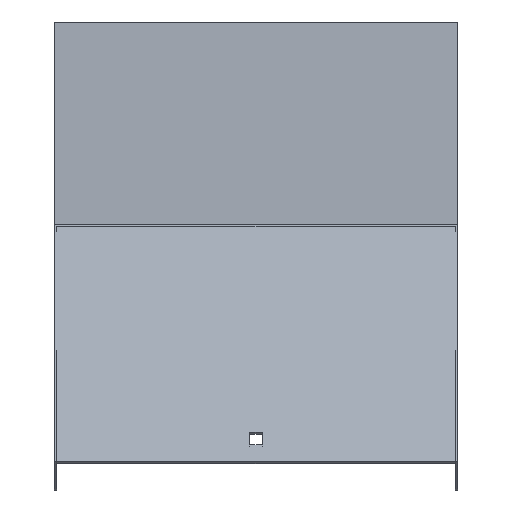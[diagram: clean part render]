
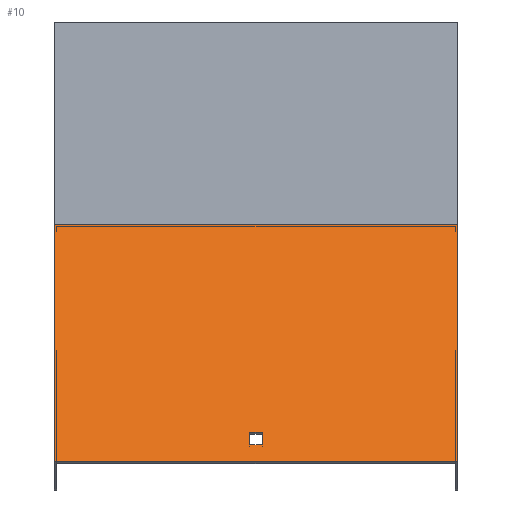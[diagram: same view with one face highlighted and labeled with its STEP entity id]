
A CAD part, top view. The second image highlights one B-rep face of the part: STEP entity #10.
In plain terms, the highlighted planar face has unit normal (0, 0.707, 0.707).
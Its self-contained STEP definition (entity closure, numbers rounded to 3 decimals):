
#2 = VERTEX_POINT ( 'NONE', #12 ) ;
#10 = ADVANCED_FACE ( 'NONE', ( #136, #656 ), #217, .F. ) ;
#12 = CARTESIAN_POINT ( 'NONE',  ( -3.25, -193.16, 526.614 ) ) ;
#35 = DIRECTION ( 'NONE',  ( -1., 0., 0. ) ) ;
#41 = LINE ( 'NONE', #710, #102 ) ;
#72 = VERTEX_POINT ( 'NONE', #154 ) ;
#73 = DIRECTION ( 'NONE',  ( 0., -0.707, -0.707 ) ) ;
#90 = EDGE_CURVE ( 'NONE', #276, #230, #673, .T. ) ;
#101 = DIRECTION ( 'NONE',  ( 0., -0.707, 0.707 ) ) ;
#102 = VECTOR ( 'NONE', #35, 1000. ) ;
#112 = CARTESIAN_POINT ( 'NONE',  ( -3.25, -84.973, 418.427 ) ) ;
#136 = FACE_BOUND ( 'NONE', #593, .T. ) ;
#137 = VECTOR ( 'NONE', #156, 1000. ) ;
#138 = EDGE_CURVE ( 'NONE', #461, #513, #323, .T. ) ;
#146 = VECTOR ( 'NONE', #489, 1000. ) ;
#154 = CARTESIAN_POINT ( 'NONE',  ( -3.25, -186.796, 520.25 ) ) ;
#156 = DIRECTION ( 'NONE',  ( 0., -0.707, 0.707 ) ) ;
#195 = VECTOR ( 'NONE', #101, 1000. ) ;
#204 = ORIENTED_EDGE ( 'NONE', *, *, #226, .T. ) ;
#213 = DIRECTION ( 'NONE',  ( 0., 0.707, -0.707 ) ) ;
#217 = PLANE ( 'NONE',  #345 ) ;
#225 = CARTESIAN_POINT ( 'NONE',  ( -101.5, -84.973, 418.427 ) ) ;
#226 = EDGE_CURVE ( 'NONE', #276, #535, #41, .T. ) ;
#227 = ORIENTED_EDGE ( 'NONE', *, *, #138, .T. ) ;
#230 = VERTEX_POINT ( 'NONE', #381 ) ;
#234 = VERTEX_POINT ( 'NONE', #321 ) ;
#248 = VECTOR ( 'NONE', #510, 1000. ) ;
#276 = VERTEX_POINT ( 'NONE', #689 ) ;
#292 = ORIENTED_EDGE ( 'NONE', *, *, #616, .F. ) ;
#297 = LINE ( 'NONE', #555, #248 ) ;
#319 = ORIENTED_EDGE ( 'NONE', *, *, #803, .T. ) ;
#321 = CARTESIAN_POINT ( 'NONE',  ( -101.5, -201.645, 535.1 ) ) ;
#323 = LINE ( 'NONE', #445, #779 ) ;
#345 = AXIS2_PLACEMENT_3D ( 'NONE', #670, #73, #213 ) ;
#349 = DIRECTION ( 'NONE',  ( -1., 0., 0. ) ) ;
#362 = CARTESIAN_POINT ( 'NONE',  ( -101.5, -82.16, 415.614 ) ) ;
#369 = ORIENTED_EDGE ( 'NONE', *, *, #517, .T. ) ;
#373 = LINE ( 'NONE', #630, #601 ) ;
#381 = CARTESIAN_POINT ( 'NONE',  ( 101.5, -201.645, 535.1 ) ) ;
#386 = EDGE_CURVE ( 'NONE', #535, #234, #676, .T. ) ;
#440 = CARTESIAN_POINT ( 'NONE',  ( 3.25, -193.16, 526.614 ) ) ;
#445 = CARTESIAN_POINT ( 'NONE',  ( 3.25, -84.973, 418.427 ) ) ;
#461 = VERTEX_POINT ( 'NONE', #768 ) ;
#474 = ORIENTED_EDGE ( 'NONE', *, *, #487, .T. ) ;
#481 = ORIENTED_EDGE ( 'NONE', *, *, #386, .T. ) ;
#487 = EDGE_CURVE ( 'NONE', #513, #2, #297, .T. ) ;
#489 = DIRECTION ( 'NONE',  ( 0., 0.707, -0.707 ) ) ;
#510 = DIRECTION ( 'NONE',  ( -1., 0., 0. ) ) ;
#513 = VERTEX_POINT ( 'NONE', #440 ) ;
#517 = EDGE_CURVE ( 'NONE', #72, #461, #373, .T. ) ;
#535 = VERTEX_POINT ( 'NONE', #362 ) ;
#555 = CARTESIAN_POINT ( 'NONE',  ( 101.5, -193.16, 526.614 ) ) ;
#563 = LINE ( 'NONE', #112, #146 ) ;
#593 = EDGE_LOOP ( 'NONE', ( #369, #227, #474, #319 ) ) ;
#601 = VECTOR ( 'NONE', #705, 1000. ) ;
#615 = VECTOR ( 'NONE', #349, 1000. ) ;
#616 = EDGE_CURVE ( 'NONE', #230, #234, #678, .T. ) ;
#630 = CARTESIAN_POINT ( 'NONE',  ( 101.5, -186.796, 520.25 ) ) ;
#642 = CARTESIAN_POINT ( 'NONE',  ( 101.5, -84.973, 418.427 ) ) ;
#656 = FACE_OUTER_BOUND ( 'NONE', #754, .T. ) ;
#664 = ORIENTED_EDGE ( 'NONE', *, *, #90, .F. ) ;
#670 = CARTESIAN_POINT ( 'NONE',  ( 101.5, -84.973, 418.427 ) ) ;
#673 = LINE ( 'NONE', #642, #195 ) ;
#676 = LINE ( 'NONE', #225, #137 ) ;
#678 = LINE ( 'NONE', #798, #615 ) ;
#689 = CARTESIAN_POINT ( 'NONE',  ( 101.5, -82.16, 415.614 ) ) ;
#705 = DIRECTION ( 'NONE',  ( 1., 0., 0. ) ) ;
#710 = CARTESIAN_POINT ( 'NONE',  ( 101.5, -82.16, 415.614 ) ) ;
#712 = DIRECTION ( 'NONE',  ( 0., -0.707, 0.707 ) ) ;
#754 = EDGE_LOOP ( 'NONE', ( #481, #292, #664, #204 ) ) ;
#768 = CARTESIAN_POINT ( 'NONE',  ( 3.25, -186.796, 520.25 ) ) ;
#779 = VECTOR ( 'NONE', #712, 1000. ) ;
#798 = CARTESIAN_POINT ( 'NONE',  ( 101.5, -201.645, 535.1 ) ) ;
#803 = EDGE_CURVE ( 'NONE', #2, #72, #563, .T. ) ;
